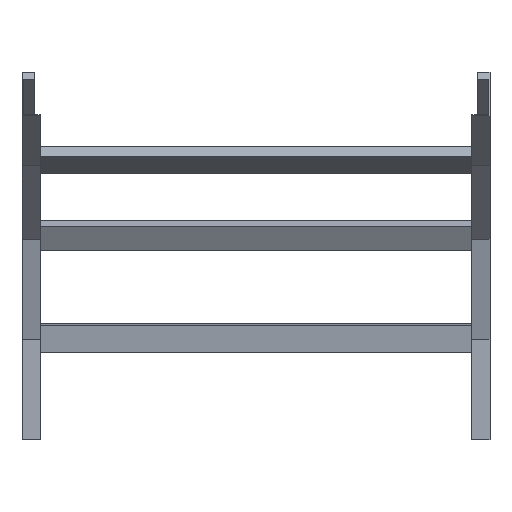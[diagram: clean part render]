
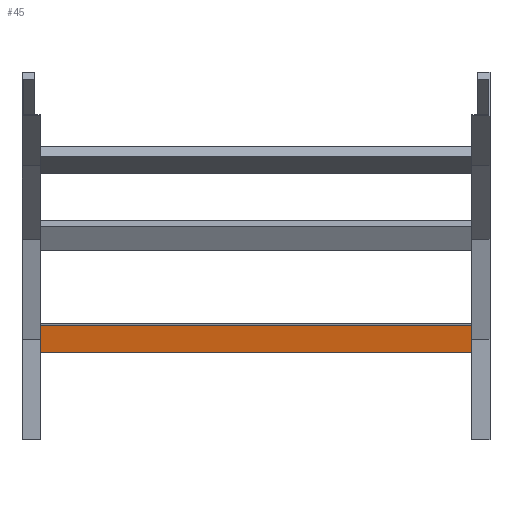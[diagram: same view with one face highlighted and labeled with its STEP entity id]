
A CAD part, front view. The second image highlights one B-rep face of the part: STEP entity #45.
In plain terms, the highlighted planar face has unit normal (0, -0.991, -0.131) as drawn and (0, -1, 0) by its records, which use the part's own axes.
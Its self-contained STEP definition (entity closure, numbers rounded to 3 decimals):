
#44 = VERTEX_POINT ( 'NONE', #1515 ) ;
#45 = ADVANCED_FACE ( 'NONE', ( #760 ), #1501, .F. ) ;
#63 = VERTEX_POINT ( 'NONE', #95 ) ;
#83 = DIRECTION ( 'NONE',  ( 0., 1., 0. ) ) ;
#95 = CARTESIAN_POINT ( 'NONE',  ( -348., 0., -20.25 ) ) ;
#110 = EDGE_LOOP ( 'NONE', ( #829, #278, #366, #527 ) ) ;
#115 = DIRECTION ( 'NONE',  ( 0., 0., 1. ) ) ;
#195 = DIRECTION ( 'NONE',  ( 0., 0., -1. ) ) ;
#278 = ORIENTED_EDGE ( 'NONE', *, *, #431, .F. ) ;
#358 = LINE ( 'NONE', #1209, #456 ) ;
#366 = ORIENTED_EDGE ( 'NONE', *, *, #1091, .F. ) ;
#431 = EDGE_CURVE ( 'NONE', #44, #63, #567, .T. ) ;
#456 = VECTOR ( 'NONE', #1358, 1000. ) ;
#527 = ORIENTED_EDGE ( 'NONE', *, *, #705, .T. ) ;
#557 = VECTOR ( 'NONE', #900, 1000. ) ;
#567 = LINE ( 'NONE', #1300, #804 ) ;
#664 = CARTESIAN_POINT ( 'NONE',  ( -348., 0., 20.25 ) ) ;
#698 = DIRECTION ( 'NONE',  ( -1., 0., 0. ) ) ;
#705 = EDGE_CURVE ( 'NONE', #1081, #883, #358, .T. ) ;
#760 = FACE_OUTER_BOUND ( 'NONE', #110, .T. ) ;
#804 = VECTOR ( 'NONE', #698, 1000. ) ;
#821 = LINE ( 'NONE', #1606, #1222 ) ;
#829 = ORIENTED_EDGE ( 'NONE', *, *, #1194, .T. ) ;
#883 = VERTEX_POINT ( 'NONE', #907 ) ;
#900 = DIRECTION ( 'NONE',  ( 0., 0., -1. ) ) ;
#907 = CARTESIAN_POINT ( 'NONE',  ( -348., 0., 20.25 ) ) ;
#937 = CARTESIAN_POINT ( 'NONE',  ( 348., 0., 20.25 ) ) ;
#1081 = VERTEX_POINT ( 'NONE', #937 ) ;
#1091 = EDGE_CURVE ( 'NONE', #1081, #44, #821, .T. ) ;
#1194 = EDGE_CURVE ( 'NONE', #883, #63, #1218, .T. ) ;
#1209 = CARTESIAN_POINT ( 'NONE',  ( 348., 0., 20.25 ) ) ;
#1218 = LINE ( 'NONE', #664, #557 ) ;
#1222 = VECTOR ( 'NONE', #195, 1000. ) ;
#1300 = CARTESIAN_POINT ( 'NONE',  ( 348., 0., -20.25 ) ) ;
#1358 = DIRECTION ( 'NONE',  ( -1., 0., 0. ) ) ;
#1385 = CARTESIAN_POINT ( 'NONE',  ( 348., 0., 20.25 ) ) ;
#1493 = AXIS2_PLACEMENT_3D ( 'NONE', #1385, #83, #115 ) ;
#1501 = PLANE ( 'NONE',  #1493 ) ;
#1515 = CARTESIAN_POINT ( 'NONE',  ( 348., 0., -20.25 ) ) ;
#1606 = CARTESIAN_POINT ( 'NONE',  ( 348., 0., 20.25 ) ) ;
